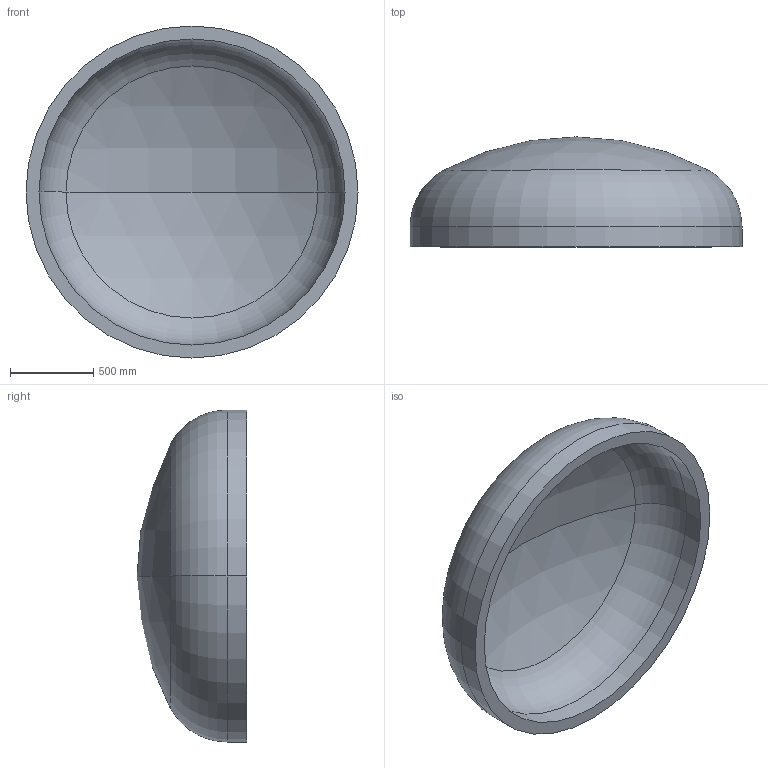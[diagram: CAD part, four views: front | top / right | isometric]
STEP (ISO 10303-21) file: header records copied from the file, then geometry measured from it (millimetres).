
FILE_DESCRIPTION (( 'STEP AP203' ), '1' );
FILE_NAME ('DIN 28013 Korbbogenform_-_Boden DIN 28013 - 2000 x 120 - I - s=78.step', '2016-07-01T14:03:54', ( '' ), ( '' ), 'SwSTEP 2.0', 'SolidWorks 2013', '' );
FILE_SCHEMA (( 'CONFIG_CONTROL_DESIGN' ));
Length unit declared in the file: millimetre
Products named in the file (1): DIN 28013 Korbbogenform_-_Boden DIN 28013 - 2000 x 120 - I - s=78
Bounding box: 2000 x 662.41 x 2000 mm (x, y, z)
Volume: 379587397 mm3; surface area: 10216724.7 mm2
Topology: 1 solids, 1 shells, 13 faces, 24 edges, 14 vertices
Faces by surface type: torus 4, cylinder 4, sphere 4, plane 1
Entity records: 407 total; most frequent: DIRECTION 72, CARTESIAN_POINT 52, ORIENTED_EDGE 48, AXIS2_PLACEMENT_3D 34, EDGE_CURVE 24, CIRCLE 20, VERTEX_POINT 14, EDGE_LOOP 14
